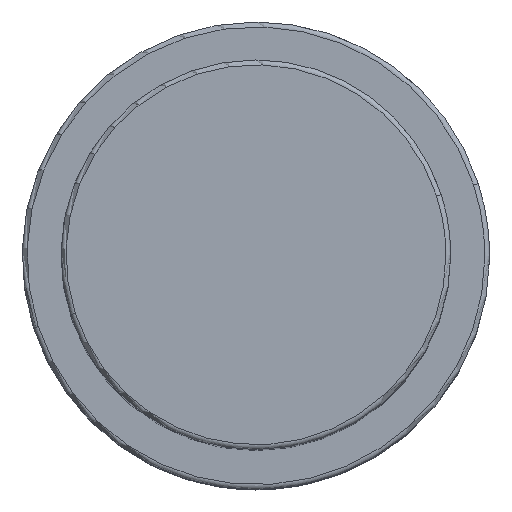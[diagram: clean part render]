
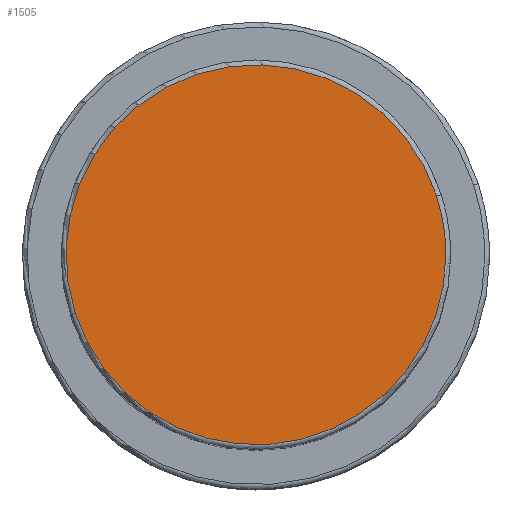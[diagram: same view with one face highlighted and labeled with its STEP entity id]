
A CAD part, top view. The second image highlights one B-rep face of the part: STEP entity #1505.
In plain terms, the highlighted planar face has unit normal (0, 0, 1).
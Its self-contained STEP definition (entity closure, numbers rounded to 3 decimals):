
#1471=CARTESIAN_POINT('',(19.5,0.0,73.5));
#1472=VERTEX_POINT('',#1471);
#1473=CARTESIAN_POINT('',(18.546,6.026,73.5));
#1474=VERTEX_POINT('',#1473);
#1475=CARTESIAN_POINT('',(0.0,0.0,73.5));
#1476=DIRECTION('',(0.0,0.0,1.0));
#1477=DIRECTION('',(1.0,0.0,0.0));
#1478=AXIS2_PLACEMENT_3D('',#1475,#1476,#1477);
#1479=CIRCLE('',#1478,19.5);
#1480=EDGE_CURVE('no 1748',#1472,#1474,#1479,.T.);
#1481=ORIENTED_EDGE('',*,*,#1480,.T.);
#1482=CARTESIAN_POINT('',(-18.546,-6.026,73.5));
#1483=VERTEX_POINT('',#1482);
#1484=CARTESIAN_POINT('',(0.0,0.0,73.5));
#1485=DIRECTION('',(0.0,0.0,1.0));
#1486=DIRECTION('',(1.0,0.0,0.0));
#1487=AXIS2_PLACEMENT_3D('',#1484,#1485,#1486);
#1488=CIRCLE('',#1487,19.5);
#1489=EDGE_CURVE('no 1754',#1474,#1483,#1488,.T.);
#1490=ORIENTED_EDGE('',*,*,#1489,.T.);
#1491=CARTESIAN_POINT('',(0.0,0.0,73.5));
#1492=DIRECTION('',(0.0,0.0,1.0));
#1493=DIRECTION('',(1.0,0.0,0.0));
#1494=AXIS2_PLACEMENT_3D('',#1491,#1492,#1493);
#1495=CIRCLE('',#1494,19.5);
#1496=EDGE_CURVE('no 1758',#1483,#1472,#1495,.T.);
#1497=ORIENTED_EDGE('',*,*,#1496,.T.);
#1498=EDGE_LOOP('',(#1481,#1490,#1497));
#1499=FACE_OUTER_BOUND('',#1498,.T.);
#1500=CARTESIAN_POINT('',(0.0,0.0,73.5));
#1501=DIRECTION('',(0.0,0.0,1.0));
#1502=DIRECTION('',(1.0,0.0,0.0));
#1503=AXIS2_PLACEMENT_3D('',#1500,#1501,#1502);
#1504=PLANE('',#1503);
#1505=ADVANCED_FACE('no 1739',(#1499),#1504,.T.);
